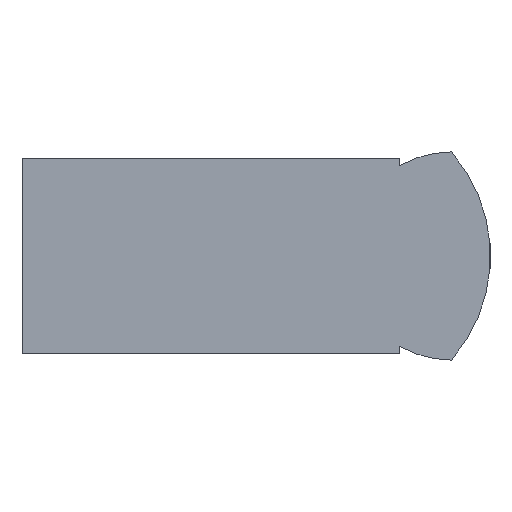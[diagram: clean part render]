
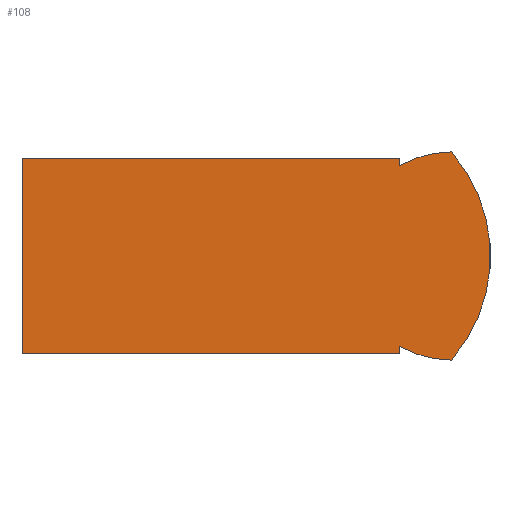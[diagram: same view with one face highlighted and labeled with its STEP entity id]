
A CAD part, left-side view. The second image highlights one B-rep face of the part: STEP entity #108.
In plain terms, the highlighted planar face has unit normal (-1, 0, 0).
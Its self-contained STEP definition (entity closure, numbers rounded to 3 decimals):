
#108 = ADVANCED_FACE( '', ( #218 ), #219, .F. );
#218 = FACE_OUTER_BOUND( '', #323, .T. );
#219 = PLANE( '', #324 );
#323 = EDGE_LOOP( '', ( #547, #548, #549, #550, #551, #552, #553, #554 ) );
#324 = AXIS2_PLACEMENT_3D( '', #555, #556, #557 );
#547 = ORIENTED_EDGE( '', *, *, #677, .F. );
#548 = ORIENTED_EDGE( '', *, *, #650, .T. );
#549 = ORIENTED_EDGE( '', *, *, #678, .T. );
#550 = ORIENTED_EDGE( '', *, *, #617, .F. );
#551 = ORIENTED_EDGE( '', *, *, #603, .F. );
#552 = ORIENTED_EDGE( '', *, *, #625, .T. );
#553 = ORIENTED_EDGE( '', *, *, #679, .F. );
#554 = ORIENTED_EDGE( '', *, *, #636, .F. );
#555 = CARTESIAN_POINT( '', ( -6., -28.416, 0. ) );
#556 = DIRECTION( '', ( 1., 0., 0. ) );
#557 = DIRECTION( '', ( 0., 0., -1. ) );
#603 = EDGE_CURVE( '', #710, #706, #712, .T. );
#617 = EDGE_CURVE( '', #706, #735, #736, .T. );
#625 = EDGE_CURVE( '', #710, #745, #747, .T. );
#636 = EDGE_CURVE( '', #763, #764, #765, .T. );
#650 = EDGE_CURVE( '', #786, #787, #788, .T. );
#677 = EDGE_CURVE( '', #786, #763, #819, .T. );
#678 = EDGE_CURVE( '', #787, #735, #820, .T. );
#679 = EDGE_CURVE( '', #764, #745, #821, .T. );
#706 = VERTEX_POINT( '', #856 );
#710 = VERTEX_POINT( '', #862 );
#712 = LINE( '', #865, #866 );
#735 = VERTEX_POINT( '', #897 );
#736 = LINE( '', #898, #899 );
#745 = VERTEX_POINT( '', #911 );
#747 = LINE( '', #914, #915 );
#763 = VERTEX_POINT( '', #934 );
#764 = VERTEX_POINT( '', #935 );
#765 = CIRCLE( '', #936, 12.167 );
#786 = VERTEX_POINT( '', #965 );
#787 = VERTEX_POINT( '', #966 );
#788 = LINE( '', #967, #968 );
#819 = CIRCLE( '', #1010, 8. );
#820 = LINE( '', #1011, #1012 );
#821 = CIRCLE( '', #1013, 8. );
#856 = CARTESIAN_POINT( '', ( -6., 0., -7.5 ) );
#862 = CARTESIAN_POINT( '', ( -6., -29., -7.5 ) );
#865 = CARTESIAN_POINT( '', ( -6., -29., -7.5 ) );
#866 = VECTOR( '', #1033, 1000. );
#897 = CARTESIAN_POINT( '', ( -6., 0., 7.5 ) );
#898 = CARTESIAN_POINT( '', ( -6., 0., -7.5 ) );
#899 = VECTOR( '', #1048, 1000. );
#911 = CARTESIAN_POINT( '', ( -6., -29., -6.928 ) );
#914 = CARTESIAN_POINT( '', ( -6., -29., -7.5 ) );
#915 = VECTOR( '', #1056, 1000. );
#934 = CARTESIAN_POINT( '', ( -6., -33., 8. ) );
#935 = CARTESIAN_POINT( '', ( -6., -33., -8. ) );
#936 = AXIS2_PLACEMENT_3D( '', #1069, #1070, #1071 );
#965 = CARTESIAN_POINT( '', ( -6., -29., 6.928 ) );
#966 = CARTESIAN_POINT( '', ( -6., -29., 7.5 ) );
#967 = CARTESIAN_POINT( '', ( -6., -29., -7.5 ) );
#968 = VECTOR( '', #1086, 1000. );
#1010 = AXIS2_PLACEMENT_3D( '', #1107, #1108, #1109 );
#1011 = CARTESIAN_POINT( '', ( -6., -29., 7.5 ) );
#1012 = VECTOR( '', #1110, 1000. );
#1013 = AXIS2_PLACEMENT_3D( '', #1111, #1112, #1113 );
#1033 = DIRECTION( '', ( 0., 1., 0. ) );
#1048 = DIRECTION( '', ( 0., 0., 1. ) );
#1056 = DIRECTION( '', ( 0., 0., 1. ) );
#1069 = CARTESIAN_POINT( '', ( -6., -23.833, 0. ) );
#1070 = DIRECTION( '', ( 1., 0., 0. ) );
#1071 = DIRECTION( '', ( 0., 0., -1. ) );
#1086 = DIRECTION( '', ( 0., 0., 1. ) );
#1107 = CARTESIAN_POINT( '', ( -6., -33., 0. ) );
#1108 = DIRECTION( '', ( 1., 0., 0. ) );
#1109 = DIRECTION( '', ( 0., 0., -1. ) );
#1110 = DIRECTION( '', ( 0., 1., 0. ) );
#1111 = CARTESIAN_POINT( '', ( -6., -33., 0. ) );
#1112 = DIRECTION( '', ( 1., 0., 0. ) );
#1113 = DIRECTION( '', ( 0., 0., -1. ) );
